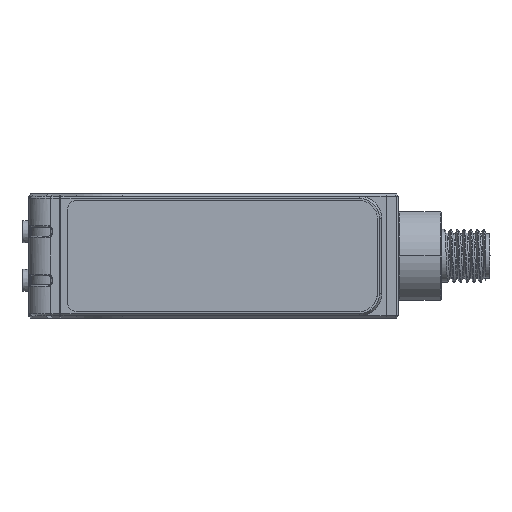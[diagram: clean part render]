
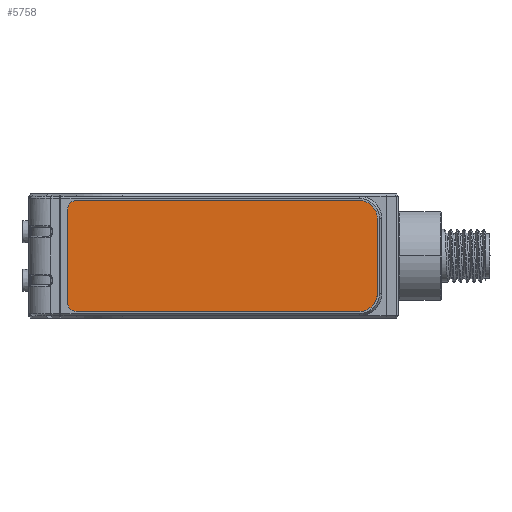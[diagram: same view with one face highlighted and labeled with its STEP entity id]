
A CAD part, left-side view. The second image highlights one B-rep face of the part: STEP entity #5758.
In plain terms, the highlighted planar face has unit normal (-1, 0, 0).
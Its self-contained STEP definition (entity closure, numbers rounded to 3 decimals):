
#1518=PLANE('',#27847);
#5568=ELLIPSE('',#27836,4.,4.);
#5570=ELLIPSE('',#27840,4.,4.);
#5571=ELLIPSE('',#27843,2.,2.);
#5573=ELLIPSE('',#27846,2.,2.);
#5758=ADVANCED_FACE('F117117',(#7536),#1518,.T.);
#7536=FACE_OUTER_BOUND('',#9135,.T.);
#9135=EDGE_LOOP('',(#11877,#11878,#11879,#11880,#11881,#11882,#11883,#11884));
#11877=ORIENTED_EDGE('',*,*,#22635,.T.);
#11878=ORIENTED_EDGE('',*,*,#22632,.F.);
#11879=ORIENTED_EDGE('',*,*,#22630,.T.);
#11880=ORIENTED_EDGE('',*,*,#22627,.F.);
#11881=ORIENTED_EDGE('',*,*,#22623,.T.);
#11882=ORIENTED_EDGE('',*,*,#22621,.F.);
#11883=ORIENTED_EDGE('',*,*,#22636,.T.);
#11884=ORIENTED_EDGE('',*,*,#22637,.F.);
#20033=VERTEX_POINT('',#36980);
#20034=VERTEX_POINT('',#36982);
#20035=VERTEX_POINT('',#36988);
#20038=VERTEX_POINT('',#36998);
#20040=VERTEX_POINT('',#37007);
#20041=VERTEX_POINT('',#37012);
#20043=VERTEX_POINT('',#37020);
#20044=VERTEX_POINT('',#37023);
#22621=EDGE_CURVE('E311311',#20033,#20034,#5568,.T.);
#22623=EDGE_CURVE('E320320',#20035,#20034,#26436,.T.);
#22627=EDGE_CURVE('E308308',#20035,#20038,#5570,.T.);
#22630=EDGE_CURVE('E321321',#20040,#20038,#26441,.T.);
#22632=EDGE_CURVE('E313313',#20040,#20041,#5571,.T.);
#22635=EDGE_CURVE('E322322',#20043,#20041,#26444,.T.);
#22636=EDGE_CURVE('E319319',#20033,#20044,#26445,.T.);
#22637=EDGE_CURVE('E317317',#20043,#20044,#5573,.T.);
#26436=B_SPLINE_CURVE_WITH_KNOTS('',1,(#36986,#36987),.UNSPECIFIED.,.F.,
 .F.,(2,2),(0.,1.),.UNSPECIFIED.);
#26441=B_SPLINE_CURVE_WITH_KNOTS('',1,(#37005,#37006),.UNSPECIFIED.,.F.,
 .F.,(2,2),(0.,1.),.UNSPECIFIED.);
#26444=B_SPLINE_CURVE_WITH_KNOTS('',1,(#37018,#37019),.UNSPECIFIED.,.F.,
 .F.,(2,2),(0.,1.),.UNSPECIFIED.);
#26445=B_SPLINE_CURVE_WITH_KNOTS('',1,(#37021,#37022),.UNSPECIFIED.,.F.,
 .F.,(2,2),(0.,1.),.UNSPECIFIED.);
#27836=AXIS2_PLACEMENT_3D('',#36981,#30394,#30395);
#27840=AXIS2_PLACEMENT_3D('',#36997,#30402,#30403);
#27843=AXIS2_PLACEMENT_3D('',#37011,#30408,#30409);
#27846=AXIS2_PLACEMENT_3D('',#37024,#30414,#30415);
#27847=AXIS2_PLACEMENT_3D('',#37025,#30416,#30417);
#30394=DIRECTION('',(1.,0.,0.));
#30395=DIRECTION('',(0.,0.707,-0.707));
#30402=DIRECTION('',(1.,0.,0.));
#30403=DIRECTION('',(0.,0.707,0.707));
#30408=DIRECTION('',(1.,0.,0.));
#30409=DIRECTION('',(0.,0.707,-0.707));
#30414=DIRECTION('',(1.,0.,0.));
#30415=DIRECTION('',(0.,-0.707,-0.707));
#30416=DIRECTION('',(-1.,0.,0.));
#30417=DIRECTION('',(0.,-1.,0.));
#36980=CARTESIAN_POINT('',(-58.,-3.048,12.498));
#36981=CARTESIAN_POINT('',(-58.,-3.048,8.498));
#36982=CARTESIAN_POINT('',(-58.,-7.048,8.498));
#36986=CARTESIAN_POINT('',(-58.,-7.048,-8.499));
#36987=CARTESIAN_POINT('',(-58.,-7.048,8.498));
#36988=CARTESIAN_POINT('',(-58.,-7.048,-8.499));
#36997=CARTESIAN_POINT('',(-58.,-3.048,-8.498));
#36998=CARTESIAN_POINT('',(-58.,-3.048,-12.498));
#37005=CARTESIAN_POINT('',(-58.,60.848,-12.498));
#37006=CARTESIAN_POINT('',(-58.,-3.048,-12.498));
#37007=CARTESIAN_POINT('',(-58.,60.848,-12.498));
#37011=CARTESIAN_POINT('',(-58.,60.848,-10.498));
#37012=CARTESIAN_POINT('',(-58.,62.848,-10.499));
#37018=CARTESIAN_POINT('',(-58.,62.848,10.498));
#37019=CARTESIAN_POINT('',(-58.,62.848,-10.499));
#37020=CARTESIAN_POINT('',(-58.,62.848,10.498));
#37021=CARTESIAN_POINT('',(-58.,-3.048,12.498));
#37022=CARTESIAN_POINT('',(-58.,60.848,12.498));
#37023=CARTESIAN_POINT('',(-58.,60.848,12.498));
#37024=CARTESIAN_POINT('',(-58.,60.848,10.498));
#37025=CARTESIAN_POINT('',(-58.,66.445,-13.85));
